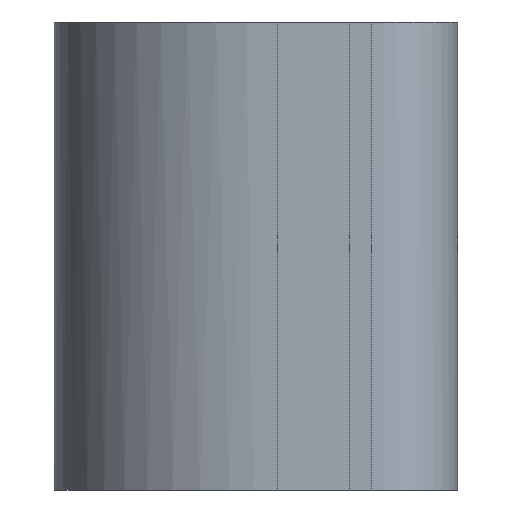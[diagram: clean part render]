
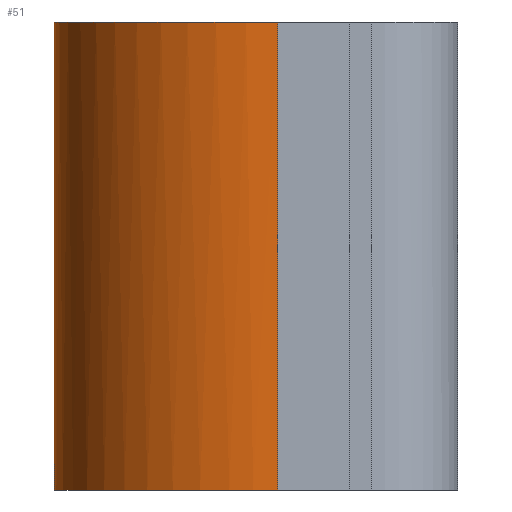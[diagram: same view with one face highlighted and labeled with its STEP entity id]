
A CAD part, left-side view. The second image highlights one B-rep face of the part: STEP entity #51.
In plain terms, the highlighted free-form (B-spline) face has degree [3, 1] with [4, 2] control points.
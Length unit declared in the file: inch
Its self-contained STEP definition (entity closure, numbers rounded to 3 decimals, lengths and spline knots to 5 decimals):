
#51=ADVANCED_FACE('',(#112),#113,.T.);
#112=FACE_OUTER_BOUND('',#189,.T.);
#113=B_SPLINE_SURFACE_WITH_KNOTS('',3,1,((#190,#191),(#192,#193),(#194,#195),(#196,#197)),.UNSPECIFIED.,.F.,.F.,.F.,(4,4),(2,2),(0.0,1.0),(0.0,0.8125),.UNSPECIFIED.);
#189=EDGE_LOOP('',(#338,#339,#340,#341));
#190=CARTESIAN_POINT('',(0.35023,0.51284,0.0));
#191=CARTESIAN_POINT('',(0.35023,0.51284,0.8125));
#192=CARTESIAN_POINT('',(0.13608,0.51284,0.0));
#193=CARTESIAN_POINT('',(0.13608,0.51284,0.8125));
#194=CARTESIAN_POINT('',(-0.03753,0.33923,0.0));
#195=CARTESIAN_POINT('',(-0.03753,0.33923,0.8125));
#196=CARTESIAN_POINT('',(-0.03753,0.12508,0.0));
#197=CARTESIAN_POINT('',(-0.03753,0.12508,0.8125));
#338=ORIENTED_EDGE('',*,*,#488,.T.);
#339=ORIENTED_EDGE('',*,*,#489,.F.);
#340=ORIENTED_EDGE('',*,*,#476,.T.);
#341=ORIENTED_EDGE('',*,*,#490,.T.);
#476=EDGE_CURVE('',#559,#556,#560,.T.);
#488=EDGE_CURVE('',#580,#581,#582,.T.);
#489=EDGE_CURVE('',#559,#581,#583,.T.);
#490=EDGE_CURVE('',#556,#580,#584,.T.);
#556=VERTEX_POINT('',#678);
#559=VERTEX_POINT('',#682);
#560=B_SPLINE_CURVE_WITH_KNOTS('',3,(#683,#684,#685,#686),.UNSPECIFIED.,.F.,.F.,(4,4),(0.0,1.0),.UNSPECIFIED.);
#580=VERTEX_POINT('',#724);
#581=VERTEX_POINT('',#725);
#582=B_SPLINE_CURVE_WITH_KNOTS('',3,(#726,#727,#728,#729),.UNSPECIFIED.,.F.,.F.,(4,4),(-1.0,-0.0),.UNSPECIFIED.);
#583=LINE('',#730,#731);
#584=LINE('',#732,#733);
#678=CARTESIAN_POINT('',(-0.03753,0.12508,0.0));
#682=CARTESIAN_POINT('',(0.35023,0.51284,0.0));
#683=CARTESIAN_POINT('',(0.35023,0.51284,0.0));
#684=CARTESIAN_POINT('',(0.13608,0.51284,0.0));
#685=CARTESIAN_POINT('',(-0.03753,0.33923,0.0));
#686=CARTESIAN_POINT('',(-0.03753,0.12508,0.0));
#724=CARTESIAN_POINT('',(-0.03753,0.12508,0.8125));
#725=CARTESIAN_POINT('',(0.35023,0.51284,0.8125));
#726=CARTESIAN_POINT('',(-0.03753,0.12508,0.8125));
#727=CARTESIAN_POINT('',(-0.03753,0.33923,0.8125));
#728=CARTESIAN_POINT('',(0.13608,0.51284,0.8125));
#729=CARTESIAN_POINT('',(0.35023,0.51284,0.8125));
#730=CARTESIAN_POINT('',(0.35023,0.51284,0.0));
#731=VECTOR('',#868,1.0);
#732=CARTESIAN_POINT('',(-0.03753,0.12508,0.0));
#733=VECTOR('',#869,1.0);
#868=DIRECTION('',(0.0,0.0,1.0));
#869=DIRECTION('',(0.0,0.0,1.0));
